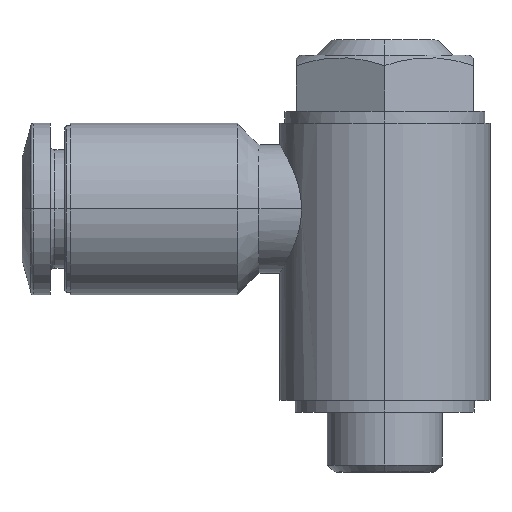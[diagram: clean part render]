
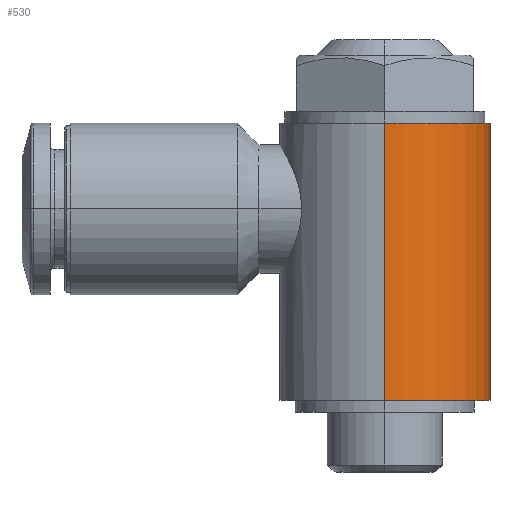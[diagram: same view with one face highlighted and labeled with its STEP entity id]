
A CAD part, top view. The second image highlights one B-rep face of the part: STEP entity #530.
In plain terms, the highlighted cylindrical face has radius 8.9 mm (diameter 17.8 mm), a partial arc.
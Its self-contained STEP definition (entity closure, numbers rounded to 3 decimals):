
#21 = CIRCLE ( 'NONE', #1072, 8.9 ) ;
#50 = LINE ( 'NONE', #1126, #415 ) ;
#68 = DIRECTION ( 'NONE',  ( 0., 0., 1. ) ) ;
#80 = ORIENTED_EDGE ( 'NONE', *, *, #723, .F. ) ;
#103 = ORIENTED_EDGE ( 'NONE', *, *, #955, .F. ) ;
#130 = CARTESIAN_POINT ( 'NONE',  ( 0., 1., -8.9 ) ) ;
#164 = CARTESIAN_POINT ( 'NONE',  ( 0., 24.45, 8.9 ) ) ;
#176 = DIRECTION ( 'NONE',  ( 0., 1., 0. ) ) ;
#213 = EDGE_CURVE ( 'NONE', #359, #452, #532, .T. ) ;
#288 = FACE_OUTER_BOUND ( 'NONE', #1552, .T. ) ;
#294 = CARTESIAN_POINT ( 'NONE',  ( 0., 24.45, -8.9 ) ) ;
#359 = VERTEX_POINT ( 'NONE', #130 ) ;
#415 = VECTOR ( 'NONE', #176, 1000. ) ;
#430 = DIRECTION ( 'NONE',  ( 0., 1., 0. ) ) ;
#452 = VERTEX_POINT ( 'NONE', #294 ) ;
#455 = DIRECTION ( 'NONE',  ( 0., 1., 0. ) ) ;
#530 = ADVANCED_FACE ( 'CYL_0', ( #288 ), #1497, .T. ) ;
#532 = LINE ( 'NONE', #971, #898 ) ;
#566 = EDGE_CURVE ( 'NONE', #930, #359, #1084, .T. ) ;
#723 = EDGE_CURVE ( 'NONE', #930, #1262, #50, .T. ) ;
#898 = VECTOR ( 'NONE', #1769, 1000. ) ;
#930 = VERTEX_POINT ( 'NONE', #1864 ) ;
#955 = EDGE_CURVE ( 'NONE', #1262, #452, #21, .T. ) ;
#971 = CARTESIAN_POINT ( 'NONE',  ( 0., -5.05, -8.9 ) ) ;
#1025 = DIRECTION ( 'NONE',  ( 0., 1., 0. ) ) ;
#1072 = AXIS2_PLACEMENT_3D ( 'NONE', #1398, #455, #1555 ) ;
#1084 = CIRCLE ( 'NONE', #1827, 8.9 ) ;
#1126 = CARTESIAN_POINT ( 'NONE',  ( 0., -5.05, 8.9 ) ) ;
#1262 = VERTEX_POINT ( 'NONE', #164 ) ;
#1367 = DIRECTION ( 'NONE',  ( 0., 0., 1. ) ) ;
#1375 = CARTESIAN_POINT ( 'NONE',  ( 0., -5.05, 0. ) ) ;
#1398 = CARTESIAN_POINT ( 'NONE',  ( 0., 24.45, 0. ) ) ;
#1497 = CYLINDRICAL_SURFACE ( 'NONE', #1618, 8.9 ) ;
#1552 = EDGE_LOOP ( 'NONE', ( #1623, #1615, #103, #80 ) ) ;
#1555 = DIRECTION ( 'NONE',  ( 0., 0., 1. ) ) ;
#1615 = ORIENTED_EDGE ( 'NONE', *, *, #213, .T. ) ;
#1618 = AXIS2_PLACEMENT_3D ( 'NONE', #1375, #430, #1367 ) ;
#1623 = ORIENTED_EDGE ( 'NONE', *, *, #566, .T. ) ;
#1769 = DIRECTION ( 'NONE',  ( 0., 1., 0. ) ) ;
#1827 = AXIS2_PLACEMENT_3D ( 'NONE', #1973, #1025, #68 ) ;
#1864 = CARTESIAN_POINT ( 'NONE',  ( 0., 1., 8.9 ) ) ;
#1973 = CARTESIAN_POINT ( 'NONE',  ( 0., 1., 0. ) ) ;
